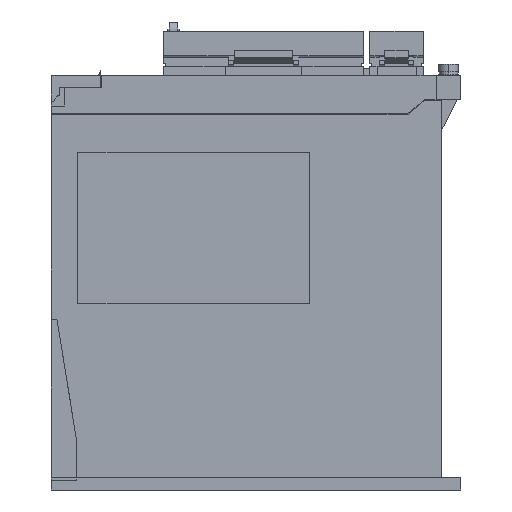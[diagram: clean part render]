
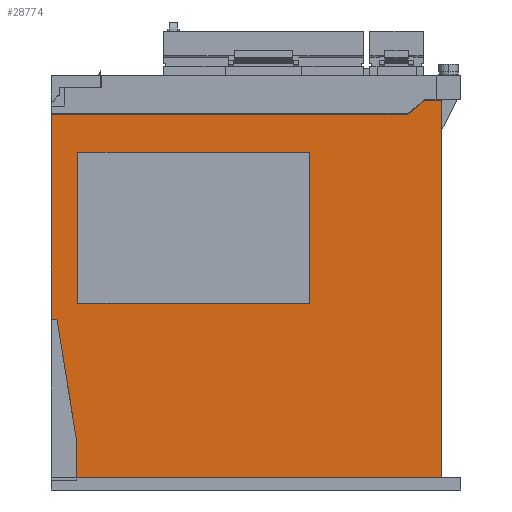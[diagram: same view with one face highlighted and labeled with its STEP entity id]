
A CAD part, left-side view. The second image highlights one B-rep face of the part: STEP entity #28774.
In plain terms, the highlighted planar face has unit normal (-1, 0, 0).
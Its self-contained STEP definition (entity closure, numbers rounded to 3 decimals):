
#4066 = CARTESIAN_POINT ( 'NONE',  ( -5., -155., 5.2 ) ) ;
#4067 = DIRECTION ( 'NONE',  ( 0., 0., -1. ) ) ;
#4068 = VECTOR ( 'NONE', #4067, 1000. ) ;
#4069 = CARTESIAN_POINT ( 'NONE',  ( -5., -155., 318.924 ) ) ;
#4070 = LINE ( 'NONE', #4069, #4068 ) ;
#4076 = CARTESIAN_POINT ( 'NONE',  ( -5., -155., 159.8 ) ) ;
#4835 = CARTESIAN_POINT ( 'NONE',  ( -5., 2.577, 70. ) ) ;
#4836 = DIRECTION ( 'NONE',  ( 0., 0.159, 0.987 ) ) ;
#4837 = VECTOR ( 'NONE', #4836, 1000. ) ;
#4838 = CARTESIAN_POINT ( 'NONE',  ( -5., -5.5, 20. ) ) ;
#4839 = LINE ( 'NONE', #4838, #4837 ) ;
#4842 = CARTESIAN_POINT ( 'NONE',  ( -5., -5.5, 20. ) ) ;
#5716 = CARTESIAN_POINT ( 'NONE',  ( -5., 5., 154. ) ) ;
#22399 = DIRECTION ( 'NONE',  ( 0., 0., -1. ) ) ;
#22400 = VECTOR ( 'NONE', #22399, 1000. ) ;
#22401 = CARTESIAN_POINT ( 'NONE',  ( -5., 5., 318.924 ) ) ;
#22402 = LINE ( 'NONE', #22401, #22400 ) ;
#22437 = CARTESIAN_POINT ( 'NONE',  ( -5., 5., 70. ) ) ;
#28571 = VERTEX_POINT ( 'NONE', #53207 ) ;
#28585 = VERTEX_POINT ( 'NONE', #53258 ) ;
#28706 = ORIENTED_EDGE ( 'NONE', *, *, #46179, .T. ) ;
#28719 = VERTEX_POINT ( 'NONE', #53494 ) ;
#28727 = ORIENTED_EDGE ( 'NONE', *, *, #28730, .F. ) ;
#28729 = ORIENTED_EDGE ( 'NONE', *, *, #28732, .F. ) ;
#28730 = EDGE_CURVE ( 'NONE', #28719, #28734, #53472, .T. ) ;
#28732 = EDGE_CURVE ( 'NONE', #28734, #28571, #53468, .T. ) ;
#28734 = VERTEX_POINT ( 'NONE', #53536 ) ;
#28756 = ORIENTED_EDGE ( 'NONE', *, *, #28770, .F. ) ;
#28767 = EDGE_LOOP ( 'NONE', ( #28756, #28729, #28727, #28965 ) ) ;
#28770 = EDGE_CURVE ( 'NONE', #28571, #28585, #53600, .T. ) ;
#28774 = ADVANCED_FACE ( 'NONE', ( #53586, #53585 ), #53583, .F. ) ;
#28779 = EDGE_CURVE ( 'NONE', #33412, #28797, #53635, .T. ) ;
#28788 = VERTEX_POINT ( 'NONE', #53616 ) ;
#28793 = ORIENTED_EDGE ( 'NONE', *, *, #28794, .F. ) ;
#28794 = EDGE_CURVE ( 'NONE', #28797, #28788, #53671, .T. ) ;
#28797 = VERTEX_POINT ( 'NONE', #53656 ) ;
#28805 = ORIENTED_EDGE ( 'NONE', *, *, #28779, .F. ) ;
#28920 = ORIENTED_EDGE ( 'NONE', *, *, #32433, .F. ) ;
#28921 = ORIENTED_EDGE ( 'NONE', *, *, #29032, .F. ) ;
#28941 = EDGE_LOOP ( 'NONE', ( #28920, #28921, #28793, #28805, #28706, #29391, #29264, #29221, #29202 ) ) ;
#28965 = ORIENTED_EDGE ( 'NONE', *, *, #29075, .F. ) ;
#29032 = EDGE_CURVE ( 'NONE', #28788, #32428, #54025, .T. ) ;
#29075 = EDGE_CURVE ( 'NONE', #28585, #28719, #54150, .T. ) ;
#29180 = VERTEX_POINT ( 'NONE', #54264 ) ;
#29202 = ORIENTED_EDGE ( 'NONE', *, *, #29310, .T. ) ;
#29221 = ORIENTED_EDGE ( 'NONE', *, *, #29339, .T. ) ;
#29264 = ORIENTED_EDGE ( 'NONE', *, *, #32911, .F. ) ;
#29310 = EDGE_CURVE ( 'NONE', #29180, #32434, #54424, .T. ) ;
#29339 = EDGE_CURVE ( 'NONE', #32905, #29180, #54456, .T. ) ;
#29389 = EDGE_CURVE ( 'NONE', #46468, #32912, #54512, .T. ) ;
#29391 = ORIENTED_EDGE ( 'NONE', *, *, #29389, .T. ) ;
#32428 = VERTEX_POINT ( 'NONE', #4076 ) ;
#32433 = EDGE_CURVE ( 'NONE', #32428, #32434, #4070, .T. ) ;
#32434 = VERTEX_POINT ( 'NONE', #4066 ) ;
#32905 = VERTEX_POINT ( 'NONE', #4842 ) ;
#32911 = EDGE_CURVE ( 'NONE', #32905, #32912, #4839, .T. ) ;
#32912 = VERTEX_POINT ( 'NONE', #4835 ) ;
#33412 = VERTEX_POINT ( 'NONE', #5716 ) ;
#46179 = EDGE_CURVE ( 'NONE', #33412, #46468, #22402, .T. ) ;
#46468 = VERTEX_POINT ( 'NONE', #22437 ) ;
#53207 = CARTESIAN_POINT ( 'NONE',  ( -5., -6., 76.5 ) ) ;
#53258 = CARTESIAN_POINT ( 'NONE',  ( -5., -101., 76.5 ) ) ;
#53468 = LINE ( 'NONE', #53539, #53538 ) ;
#53469 = DIRECTION ( 'NONE',  ( 0., 1., 0. ) ) ;
#53470 = VECTOR ( 'NONE', #53469, 1000. ) ;
#53471 = CARTESIAN_POINT ( 'NONE',  ( -5., -6., 138.5 ) ) ;
#53472 = LINE ( 'NONE', #53471, #53470 ) ;
#53494 = CARTESIAN_POINT ( 'NONE',  ( -5., -101., 138.5 ) ) ;
#53536 = CARTESIAN_POINT ( 'NONE',  ( -5., -6., 138.5 ) ) ;
#53537 = DIRECTION ( 'NONE',  ( 0., 0., -1. ) ) ;
#53538 = VECTOR ( 'NONE', #53537, 1000. ) ;
#53539 = CARTESIAN_POINT ( 'NONE',  ( -5., -6., 76.5 ) ) ;
#53579 = DIRECTION ( 'NONE',  ( 0., 1., 0. ) ) ;
#53580 = DIRECTION ( 'NONE',  ( 1., 0., 0. ) ) ;
#53581 = CARTESIAN_POINT ( 'NONE',  ( -5., 5., 318.924 ) ) ;
#53582 = AXIS2_PLACEMENT_3D ( 'NONE', #53581, #53580, #53579 ) ;
#53583 = PLANE ( 'NONE',  #53582 ) ;
#53585 = FACE_OUTER_BOUND ( 'NONE', #28941, .T. ) ;
#53586 = FACE_BOUND ( 'NONE', #28767, .T. ) ;
#53597 = DIRECTION ( 'NONE',  ( 0., -1., 0. ) ) ;
#53598 = VECTOR ( 'NONE', #53597, 1000. ) ;
#53599 = CARTESIAN_POINT ( 'NONE',  ( -5., -6., 76.5 ) ) ;
#53600 = LINE ( 'NONE', #53599, #53598 ) ;
#53616 = CARTESIAN_POINT ( 'NONE',  ( -5., -148., 159.8 ) ) ;
#53632 = DIRECTION ( 'NONE',  ( 0., -1., 0. ) ) ;
#53633 = VECTOR ( 'NONE', #53632, 1000. ) ;
#53634 = CARTESIAN_POINT ( 'NONE',  ( -5., 13.365, 154. ) ) ;
#53635 = LINE ( 'NONE', #53634, #53633 ) ;
#53656 = CARTESIAN_POINT ( 'NONE',  ( -5., -141.328, 154. ) ) ;
#53668 = DIRECTION ( 'NONE',  ( 0., -0.755, 0.656 ) ) ;
#53669 = VECTOR ( 'NONE', #53668, 1000. ) ;
#53670 = CARTESIAN_POINT ( 'NONE',  ( -5., -141.328, 154. ) ) ;
#53671 = LINE ( 'NONE', #53670, #53669 ) ;
#54021 = DIRECTION ( 'NONE',  ( 0., -1., 0. ) ) ;
#54022 = VECTOR ( 'NONE', #54021, 1000. ) ;
#54024 = CARTESIAN_POINT ( 'NONE',  ( -5., -153., 159.8 ) ) ;
#54025 = LINE ( 'NONE', #54024, #54022 ) ;
#54147 = DIRECTION ( 'NONE',  ( 0., 0., 1. ) ) ;
#54148 = VECTOR ( 'NONE', #54147, 1000. ) ;
#54149 = CARTESIAN_POINT ( 'NONE',  ( -5., -101., 76.5 ) ) ;
#54150 = LINE ( 'NONE', #54149, #54148 ) ;
#54252 = CARTESIAN_POINT ( 'NONE',  ( -5., 5., 70. ) ) ;
#54264 = CARTESIAN_POINT ( 'NONE',  ( -5., -5.5, 5.2 ) ) ;
#54421 = DIRECTION ( 'NONE',  ( 0., -1., 0. ) ) ;
#54422 = VECTOR ( 'NONE', #54421, 1000. ) ;
#54423 = CARTESIAN_POINT ( 'NONE',  ( -5., -5.5, 5.2 ) ) ;
#54424 = LINE ( 'NONE', #54423, #54422 ) ;
#54453 = DIRECTION ( 'NONE',  ( 0., 0., -1. ) ) ;
#54454 = VECTOR ( 'NONE', #54453, 1000. ) ;
#54455 = CARTESIAN_POINT ( 'NONE',  ( -5., -5.5, 20. ) ) ;
#54456 = LINE ( 'NONE', #54455, #54454 ) ;
#54512 = LINE ( 'NONE', #54252, #54585 ) ;
#54584 = DIRECTION ( 'NONE',  ( 0., -1., 0. ) ) ;
#54585 = VECTOR ( 'NONE', #54584, 1000. ) ;
